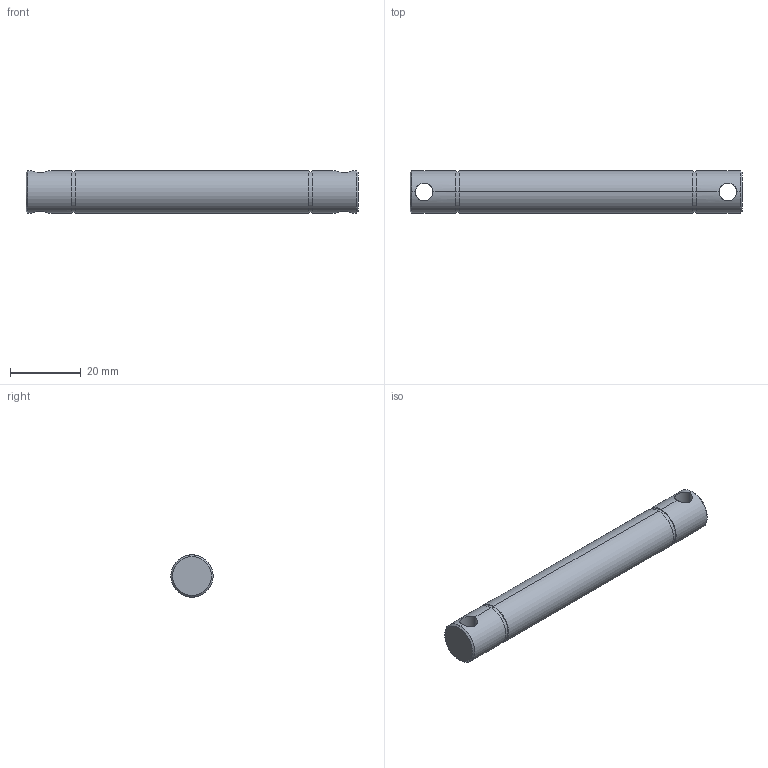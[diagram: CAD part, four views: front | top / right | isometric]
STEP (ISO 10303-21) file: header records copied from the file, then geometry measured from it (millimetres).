
FILE_DESCRIPTION (( 'STEP AP214' ), '1' );
FILE_NAME ('084.030.123.STEP', '2021-02-05T15:38:41', ( '' ), ( '' ), 'SwSTEP 2.0', 'SolidWorks 2018', '' );
FILE_SCHEMA (( 'AUTOMOTIVE_DESIGN' ));
Length unit declared in the file: millimetre
Products named in the file (1): 084.030.123
Bounding box: 94 x 12 x 12 mm (x, y, z)
Volume: 10140.9 mm3; surface area: 4060.3 mm2
Topology: 1 solids, 1 shells, 24 faces, 54 edges, 32 vertices
Faces by surface type: cylinder 14, plane 6, cone 4
Entity records: 976 total; most frequent: CARTESIAN_POINT 351, DIRECTION 120, ORIENTED_EDGE 108, EDGE_CURVE 54, AXIS2_PLACEMENT_3D 49, VERTEX_POINT 32, EDGE_LOOP 28, CIRCLE 24
